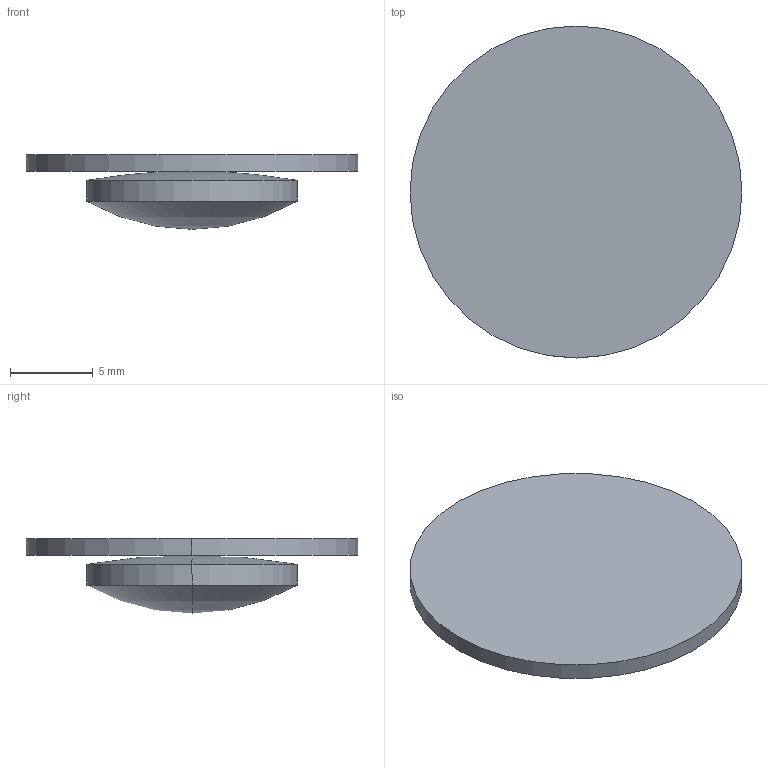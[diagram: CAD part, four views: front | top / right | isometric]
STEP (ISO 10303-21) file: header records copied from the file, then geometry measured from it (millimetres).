
FILE_DESCRIPTION(('STEP AP214'),'1');
FILE_NAME('LLU-13-20.STEP','2020-03-09T17:42:05',(' '),(' '),'Spatial InterOp 3D',' ',' ');
FILE_SCHEMA(('AUTOMOTIVE_DESIGN { 1 0 10303 214 1 1 1 1 }'));
Length unit declared in the file: millimetre
Products named in the file (1): 1
Bounding box: 20 x 20 x 4.5 mm (x, y, z)
Volume: 617.5 mm3; surface area: 1004.3 mm2
Topology: 2 solids, 2 shells, 10 faces, 20 edges, 10 vertices
Faces by surface type: sphere 4, cylinder 4, plane 2
Entity records: 255 total; most frequent: DIRECTION 52, CARTESIAN_POINT 38, ORIENTED_EDGE 32, AXIS2_PLACEMENT_3D 24, EDGE_CURVE 16, CIRCLE 12, ADVANCED_FACE 10, FACE_OUTER_BOUND 10
